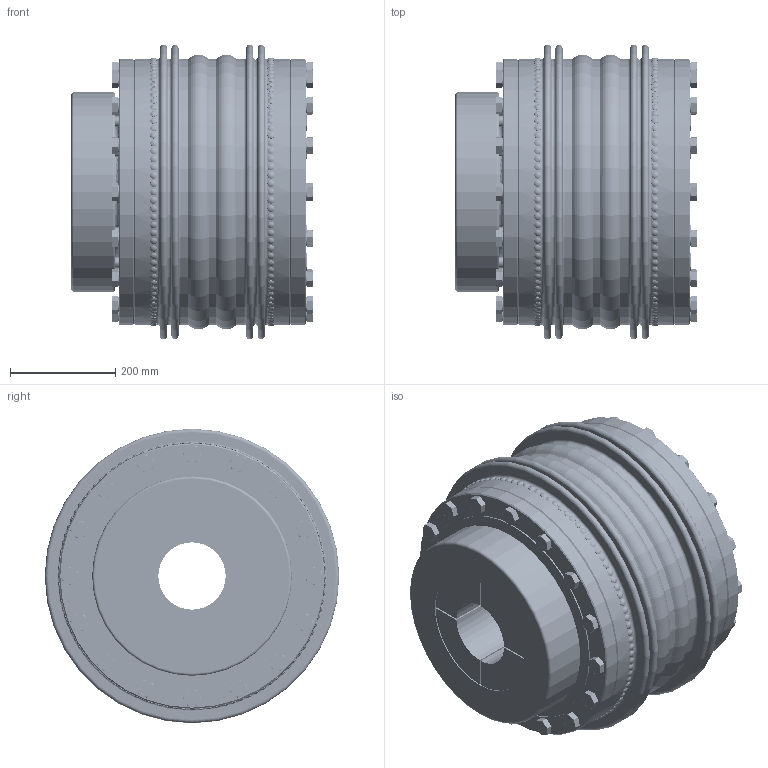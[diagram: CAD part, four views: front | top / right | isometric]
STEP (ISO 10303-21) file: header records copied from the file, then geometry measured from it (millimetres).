
FILE_DESCRIPTION(/* description */ ('Unknown'),/* implementation_level */ '2;1');
FILE_NAME(/* name */ 'KXL 50 A-B',/* time_stamp */ '2020-07-06T10:17:13+02:00',/* author */ ('Unknown'),/* organization */ ('Unknown'),/* preprocessor_version */ 'ST-DEVELOPER v16.7',/* originating_system */ 'DEX',/* authorisation */ $);
FILE_SCHEMA (('AUTOMOTIVE_DESIGN {1 0 10303 214 3 1 1}'));
Products named in the file (1): KXL 50 A-B2
Bounding box: 459.4 x 560.5 x 560.5 mm (x, y, z)
Volume: 32380459.3 mm3; surface area: 3755500.9 mm2
Topology: 1 solids, 59 shells, 2836 faces, 6319 edges, 4207 vertices
Faces by surface type: plane 1240, torus 972, cylinder 494, cone 130
Full cylindrical faces by diameter (mm): 6.4 x200, 15 x12, 17.294 x68, 20 x68, 21 x56, 28.2 x56, 128 x2, 380 x2, 410 x4, 420 x4, 430 x2, 487 x2, 499.7 x3, 504.7 x3, 505 x4
Entity records: 69966 total; most frequent: CARTESIAN_POINT 17789, DIRECTION 10630, ORIENTED_EDGE 8172, FACE_BOUND 5044, EDGE_LOOP 4808, AXIS2_PLACEMENT_3D 4795, EDGE_CURVE 4086, VERTEX_POINT 3458
